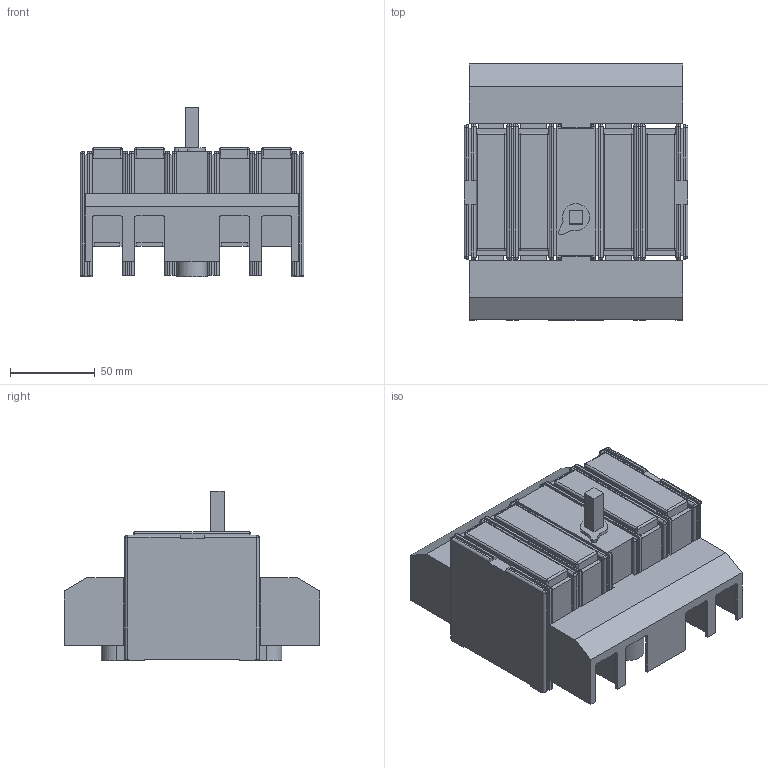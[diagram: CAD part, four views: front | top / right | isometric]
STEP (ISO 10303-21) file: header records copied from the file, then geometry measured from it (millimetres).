
FILE_DESCRIPTION(/* description */ (''),/* implementation_level */ '2;1');
FILE_NAME(/* name */ 'RA100 P3 z oslonka zaciskow.stp',/* time_stamp */ '2021-08-17T12:52:41+02:00',/* author */ (''),/* organization */ (''),/* preprocessor_version */ 'ST-DEVELOPER v18.1',/* originating_system */ 'SIEMENS PLM Software NX 1965',/* authorisation */ '');
FILE_SCHEMA (('AUTOMOTIVE_DESIGN { 1 0 10303 214 3 1 1 1 }'));
Length unit declared in the file: millimetre
Products named in the file (1): RA100 P3 z oslonka zaciskow_stp
Bounding box: 132 x 151.03 x 100 mm (x, y, z)
Volume: 695497.4 mm3; surface area: 127327.8 mm2
Topology: 1 solids, 1 shells, 471 faces, 1282 edges, 783 vertices
Faces by surface type: plane 300, cylinder 131, sphere 39, bspline 1
Full cylindrical faces by diameter (mm): 5.8 x2, 6.5 x6, 10 x2, 11.5 x2
Entity records: 14282 total; most frequent: CARTESIAN_POINT 2515, ORIENTED_EDGE 2448, DIRECTION 2424, EDGE_CURVE 1224, LINE 960, VECTOR 960, VERTEX_POINT 777, AXIS2_PLACEMENT_3D 732
